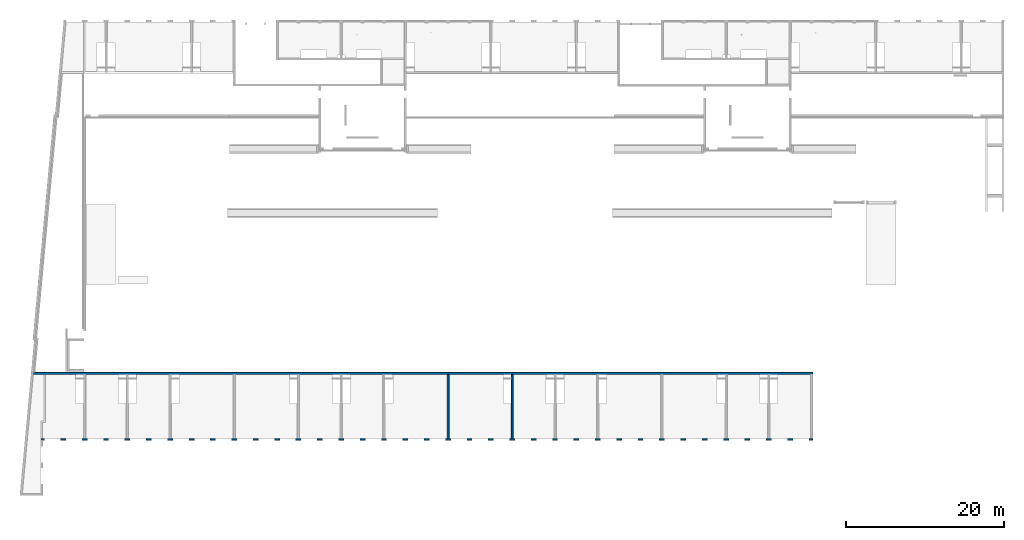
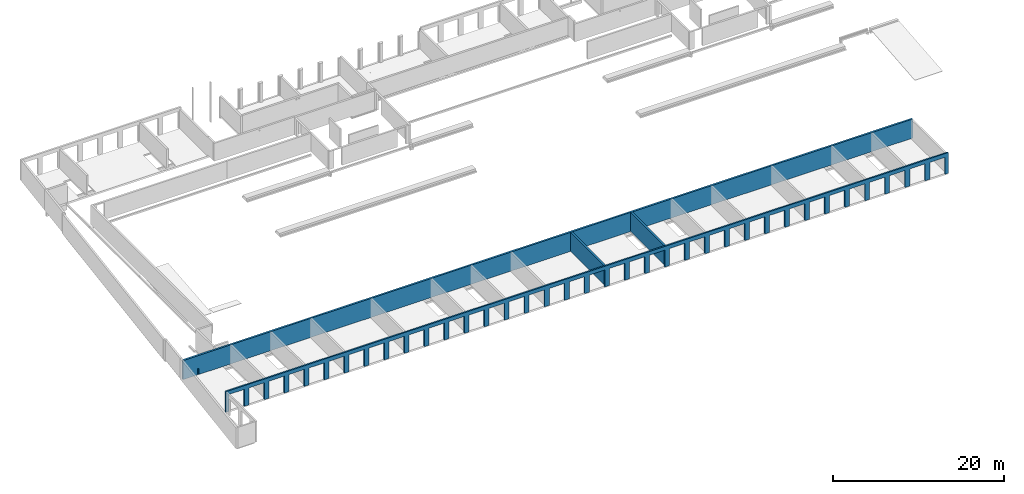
# One storey, part 9 of 18: 4 walls, 64 openings.
"""IFC2X3 building model written with IfcOpenShell, lengths in millimetres."""

from ifc_helpers import new_model, entity, si_unit, converted_unit, derived_unit, direction, frame, frame_2d, origin, place, context, subcontext, project, spatial, rectangle, extrude, faceted_brep, material, layer, layer_set, layer_usage, type_object, element, save


model = new_model("IFC2X3")

# Units and contexts
model_context = context("Model", 3, precision=0.01, world=origin(), true_north=direction((6.12303176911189e-17, 1.0)))
body_context = subcontext(model_context, "Body", "Model", "MODEL_VIEW")
ifc_project = project(units=[si_unit("LENGTHUNIT", "METRE", prefix="MILLI"), si_unit("AREAUNIT", "SQUARE_METRE"), si_unit("VOLUMEUNIT", "CUBIC_METRE"), converted_unit("PLANEANGLEUNIT", "DEGREE", entity("IfcRatioMeasure", 0.0174532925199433), si_unit("PLANEANGLEUNIT", "RADIAN"), dimensions=[0, 0, 0, 0, 0, 0, 0]), si_unit("MASSUNIT", "GRAM", prefix="KILO"), derived_unit("MASSDENSITYUNIT", [(si_unit("MASSUNIT", "GRAM", prefix="KILO"), 1), (si_unit("LENGTHUNIT", "METRE"), -3)]), si_unit("TIMEUNIT", "SECOND"), si_unit("FREQUENCYUNIT", "HERTZ"), si_unit("THERMODYNAMICTEMPERATUREUNIT", "DEGREE_CELSIUS"), derived_unit("THERMALTRANSMITTANCEUNIT", [(si_unit("MASSUNIT", "GRAM", prefix="KILO"), 1), (si_unit("THERMODYNAMICTEMPERATUREUNIT", "KELVIN"), -1), (si_unit("TIMEUNIT", "SECOND"), -3)]), derived_unit("VOLUMETRICFLOWRATEUNIT", [(si_unit("LENGTHUNIT", "METRE"), 3), (si_unit("TIMEUNIT", "SECOND"), -1)]), si_unit("ELECTRICCURRENTUNIT", "AMPERE"), si_unit("ELECTRICVOLTAGEUNIT", "VOLT"), si_unit("POWERUNIT", "WATT"), si_unit("FORCEUNIT", "NEWTON", prefix="KILO"), si_unit("ILLUMINANCEUNIT", "LUX"), si_unit("LUMINOUSFLUXUNIT", "LUMEN"), si_unit("LUMINOUSINTENSITYUNIT", "CANDELA"), derived_unit("USERDEFINED", [(si_unit("MASSUNIT", "GRAM", prefix="KILO"), -1), (si_unit("LENGTHUNIT", "METRE"), -2), (si_unit("TIMEUNIT", "SECOND"), 3), (si_unit("LUMINOUSFLUXUNIT", "LUMEN"), 1)]), derived_unit("LINEARVELOCITYUNIT", [(si_unit("LENGTHUNIT", "METRE"), 1), (si_unit("TIMEUNIT", "SECOND"), -1)]), si_unit("PRESSUREUNIT", "PASCAL"), derived_unit("USERDEFINED", [(si_unit("LENGTHUNIT", "METRE"), -2), (si_unit("MASSUNIT", "GRAM", prefix="KILO"), 1), (si_unit("TIMEUNIT", "SECOND"), -2)])], contexts=[model_context])

# Site, building, storey
site_placement = place(None, origin())
site = spatial("IfcSite", under=ifc_project, at=site_placement, Name="Default", CompositionType="ELEMENT")
building_placement = place(site_placement, origin())
building = spatial("IfcBuilding", under=site, at=building_placement, Name="niet gebruiken", CompositionType="ELEMENT")
storey_placement = place(building_placement, frame((0.0, 0.0, 3690.0)))
storey = spatial("IfcBuildingStorey", under=building, at=storey_placement, Name="01 eerste verdieping", CompositionType="ELEMENT", Elevation=3690.00000000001)

# Walls
ifc_material_1 = material(Name="NLRS_f2_beton ihwg")
ifc_layer_1 = layer(ifc_material_1, 250.0)
ifc_layer_set_1 = layer_set([ifc_layer_1], Name="Basic Wall:NLRS_22.21_WA_beton ihwg d=250_gen")
ifc_layer_usage_1 = layer_usage(ifc_layer_set_1, "AXIS2", "NEGATIVE", 125.0)
wall_type_1 = type_object("IfcWallType", Name="Basic Wall:NLRS_22.21_WA_beton ihwg d=250_gen", PredefinedType="STANDARD", material=ifc_layer_set_1)
wall_1_placement = place(storey_placement, frame((54000.0, 8496.0, -90.0), z_axis=(0.0, 0.0, 1.0), x_axis=(0.0, -1.0, 0.0)))
element("IfcWallStandardCase", 1, at=wall_1_placement, inside=storey, type_object=wall_type_1, material=ifc_layer_usage_1, Name="Basic Wall:NLRS_22.21_WA_beton ihwg d=250_gen", ObjectType="Basic Wall:NLRS_22.21_WA_beton ihwg d=250_gen", context=body_context, shape_type="SweptSolid", body=[
    extrude(rectangle(XDim=8075.99999999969, YDim=249.999999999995, at=frame_2d((4037.99999999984, 0.0), x_axis=(-1.0, 0.0))), origin(), (0.0, 0.0, 1.0), 2720.00000000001),
])
ifc_layer_usage_2 = layer_usage(ifc_layer_set_1, "AXIS2", "NEGATIVE", 125.0)
wall_2_placement = place(storey_placement, frame((62100.0, 8496.0, -90.0), z_axis=(0.0, 0.0, 1.0), x_axis=(0.0, -1.0, 0.0)))
element("IfcWallStandardCase", 2, at=wall_2_placement, inside=storey, type_object=wall_type_1, material=ifc_layer_usage_2, Name="Basic Wall:NLRS_22.21_WA_beton ihwg d=250_gen", ObjectType="Basic Wall:NLRS_22.21_WA_beton ihwg d=250_gen", context=body_context, shape_type="SweptSolid", body=[
    extrude(rectangle(XDim=8075.99999999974, YDim=249.999999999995, at=frame_2d((4037.99999999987, 0.0), x_axis=(-1.0, 0.0))), origin(), (0.0, 0.0, 1.0), 2720.00000000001),
])

# Wall, openings
ifc_layer_usage_3 = layer_usage(ifc_layer_set_1, "AXIS2", "NEGATIVE", 125.0)
wall_3_placement = place(storey_placement, frame((1622.96064206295, 8621.0, -90.0)))
wall_3 = element("IfcWallStandardCase", 3, at=wall_3_placement, inside=storey, type_object=wall_type_1, material=ifc_layer_usage_3, Name="Basic Wall:NLRS_22.21_WA_beton ihwg d=250_gen", ObjectType="Basic Wall:NLRS_22.21_WA_beton ihwg d=250_gen", context=body_context, shape_type="SweptSolid", body=[
    extrude(rectangle(XDim=98402.0393579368, YDim=249.999999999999, at=frame_2d((49201.0196789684, -1.4210854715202e-14), x_axis=(-1.0, 0.0))), origin(), (0.0, 0.0, 1.0), 2720.00000000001),
])
opening_1_placement = place(wall_3_placement, frame((-253.463612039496, -162.364965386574, -1502.0)))
element("IfcOpeningElement", 4, at=opening_1_placement, cuts=wall_3, Name="Basic Wall:NLRS_22.21_WA_beton ihwg d=250_gen", ObjectType="Opening", context=body_context, shape_type="Brep", body=[
    faceted_brep([(282.44387359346, 350.0, 4300.0), (0.0, 350.0, 4300.0), (0.0, 0.0, 4300.0), (250.0, 0.0, 4300.0), (282.44387359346, 350.0, 0.0), (250.0, 0.0, 0.0), (0.0, 0.0, 0.0), (0.0, 350.0, 0.0)], [[[0, 1, 2, 3]], [[4, 5, 6, 7]], [[1, 0, 4, 7]], [[2, 1, 7, 6]], [[3, 2, 6, 5]], [[0, 3, 5, 4]]]),
])
opening_2_placement = place(wall_3_placement, origin())
element("IfcOpeningElement", 5, at=opening_2_placement, cuts=wall_3, Name="Basic Wall:NLRS_22.21_WA_beton ihwg d=250_gen", ObjectType="Recess", context=body_context, shape_type="SweptSolid", body=[
    extrude(rectangle(XDim=890.0, YDim=200.000000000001, at=frame_2d((0.0, 2.77111666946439e-13), x_axis=(1.0, 0.0))), frame((2022.03935793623, -125.0, 445.0), z_axis=(0.0, 1.0, 0.0), x_axis=(0.0, 0.0, -1.0)), (0.0, 0.0, 1.0), 40.0000000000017),
])

ifc_material_2 = material(Name="NLRS_f2_beton prefab")
ifc_layer_2 = layer(ifc_material_2, 200.0)
ifc_layer_set_2 = layer_set([ifc_layer_2], Name="Basic Wall:NLRS_21.21_WA_beton prefab d=200_gen")
ifc_layer_usage_4 = layer_usage(ifc_layer_set_2, "AXIS2", "NEGATIVE", 100.0)
wall_type_2 = type_object("IfcWallType", Name="Basic Wall:NLRS_21.21_WA_beton prefab d=200_gen", PredefinedType="STANDARD", material=ifc_layer_set_2)
wall_4_placement = place(storey_placement, frame((2600.0, 300.0, -70.0)))
wall_4 = element("IfcWallStandardCase", 6, at=wall_4_placement, inside=storey, type_object=wall_type_2, material=ifc_layer_usage_4, Name="Basic Wall:NLRS_21.21_WA_beton prefab d=200_gen", ObjectType="Basic Wall:NLRS_21.21_WA_beton prefab d=200_gen", context=body_context, shape_type="SweptSolid", body=[
    extrude(rectangle(XDim=97424.9999999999, YDim=200.0, at=frame_2d((48712.5, -2.8421709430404e-14), x_axis=(-1.0, 0.0))), origin(), (0.0, 0.0, 1.0), 2950.00000000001),
])
opening_3_placement = place(wall_4_placement, origin())
element("IfcOpeningElement", 7, at=opening_3_placement, cuts=wall_4, Name="Basic Wall:NLRS_21.21_WA_beton prefab d=200_gen", ObjectType="Opening", context=body_context, shape_type="SweptSolid", body=[
    extrude(rectangle(XDim=2440.0, YDim=2080.0, at=frame_2d((-8.64019966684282e-12, 0.0), x_axis=(0.0, 1.0))), frame((95950.0, -1424.0, 1200.0), z_axis=(0.0, 1.0, 0.0), x_axis=(-1.0, 0.0, 0.0)), (0.0, 0.0, 1.0), 3048.0),
])
opening_4_placement = place(wall_4_placement, origin())
element("IfcOpeningElement", 8, at=opening_4_placement, cuts=wall_4, Name="Basic Wall:NLRS_21.21_WA_beton prefab d=200_gen", ObjectType="Opening", context=body_context, shape_type="SweptSolid", body=[
    extrude(rectangle(XDim=2440.0, YDim=2080.0, at=frame_2d((8.64019966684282e-12, 0.0), x_axis=(0.0, 1.0))), frame((93250.0, -1424.0, 1200.0), z_axis=(0.0, 1.0, 0.0), x_axis=(-1.0, 0.0, 0.0)), (0.0, 0.0, 1.0), 3048.0),
])
opening_5_placement = place(wall_4_placement, origin())
element("IfcOpeningElement", 9, at=opening_5_placement, cuts=wall_4, Name="Basic Wall:NLRS_21.21_WA_beton prefab d=200_gen", ObjectType="Opening", context=body_context, shape_type="SweptSolid", body=[
    extrude(rectangle(XDim=2440.0, YDim=2080.0, at=frame_2d((8.64019966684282e-12, 0.0), x_axis=(0.0, 1.0))), frame((90550.0, -1424.0, 1200.0), z_axis=(0.0, 1.0, 0.0), x_axis=(-1.0, 0.0, 0.0)), (0.0, 0.0, 1.0), 3048.0),
])
opening_6_placement = place(wall_4_placement, origin())
element("IfcOpeningElement", 10, at=opening_6_placement, cuts=wall_4, Name="Basic Wall:NLRS_21.21_WA_beton prefab d=200_gen", ObjectType="Opening", context=body_context, shape_type="SweptSolid", body=[
    extrude(rectangle(XDim=2440.0, YDim=2080.0, at=frame_2d((-8.64019966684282e-12, 0.0), x_axis=(0.0, 1.0))), frame((87850.0, -1424.0, 1200.0), z_axis=(0.0, 1.0, 0.0), x_axis=(-1.0, 0.0, 0.0)), (0.0, 0.0, 1.0), 3048.0),
])
opening_7_placement = place(wall_4_placement, origin())
element("IfcOpeningElement", 11, at=opening_7_placement, cuts=wall_4, Name="Basic Wall:NLRS_21.21_WA_beton prefab d=200_gen", ObjectType="Opening", context=body_context, shape_type="SweptSolid", body=[
    extrude(rectangle(XDim=2440.0, YDim=2080.0, at=frame_2d((8.64019966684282e-12, 0.0), x_axis=(0.0, 1.0))), frame((85150.0, -1424.0, 1200.0), z_axis=(0.0, 1.0, 0.0), x_axis=(-1.0, 0.0, 0.0)), (0.0, 0.0, 1.0), 3048.0),
])
opening_8_placement = place(wall_4_placement, origin())
element("IfcOpeningElement", 12, at=opening_8_placement, cuts=wall_4, Name="Basic Wall:NLRS_21.21_WA_beton prefab d=200_gen", ObjectType="Opening", context=body_context, shape_type="SweptSolid", body=[
    extrude(rectangle(XDim=2440.0, YDim=2080.0, at=frame_2d((8.64019966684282e-12, 0.0), x_axis=(0.0, 1.0))), frame((82450.0, -1424.0, 1200.0), z_axis=(0.0, 1.0, 0.0), x_axis=(-1.0, 0.0, 0.0)), (0.0, 0.0, 1.0), 3048.0),
])
opening_9_placement = place(wall_4_placement, origin())
element("IfcOpeningElement", 13, at=opening_9_placement, cuts=wall_4, Name="Basic Wall:NLRS_21.21_WA_beton prefab d=200_gen", ObjectType="Opening", context=body_context, shape_type="SweptSolid", body=[
    extrude(rectangle(XDim=2440.0, YDim=2080.0, at=frame_2d((-8.64019966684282e-12, 0.0), x_axis=(0.0, 1.0))), frame((79750.0, -1424.0, 1200.0), z_axis=(0.0, 1.0, 0.0), x_axis=(-1.0, 0.0, 0.0)), (0.0, 0.0, 1.0), 3048.0),
])
opening_10_placement = place(wall_4_placement, origin())
element("IfcOpeningElement", 14, at=opening_10_placement, cuts=wall_4, Name="Basic Wall:NLRS_21.21_WA_beton prefab d=200_gen", ObjectType="Opening", context=body_context, shape_type="SweptSolid", body=[
    extrude(rectangle(XDim=2440.0, YDim=2080.0, at=frame_2d((-8.64019966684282e-12, 0.0), x_axis=(0.0, 1.0))), frame((77050.0, -1424.0, 1200.0), z_axis=(0.0, 1.0, 0.0), x_axis=(-1.0, 0.0, 0.0)), (0.0, 0.0, 1.0), 3048.0),
])
opening_11_placement = place(wall_4_placement, origin())
element("IfcOpeningElement", 15, at=opening_11_placement, cuts=wall_4, Name="Basic Wall:NLRS_21.21_WA_beton prefab d=200_gen", ObjectType="Opening", context=body_context, shape_type="SweptSolid", body=[
    extrude(rectangle(XDim=2440.0, YDim=2080.0, at=frame_2d((0.0, 0.0), x_axis=(0.0, 1.0))), frame((74350.0, -1424.0, 1200.0), z_axis=(0.0, 1.0, 0.0), x_axis=(-1.0, 0.0, 0.0)), (0.0, 0.0, 1.0), 3048.0),
])
opening_12_placement = place(wall_4_placement, origin())
element("IfcOpeningElement", 16, at=opening_12_placement, cuts=wall_4, Name="Basic Wall:NLRS_21.21_WA_beton prefab d=200_gen", ObjectType="Opening", context=body_context, shape_type="SweptSolid", body=[
    extrude(rectangle(XDim=2440.0, YDim=2080.0, at=frame_2d((0.0, 0.0), x_axis=(0.0, 1.0))), frame((71650.0, -1424.0, 1200.0), z_axis=(0.0, 1.0, 0.0), x_axis=(-1.0, 0.0, 0.0)), (0.0, 0.0, 1.0), 3048.0),
])
opening_13_placement = place(wall_4_placement, origin())
element("IfcOpeningElement", 17, at=opening_13_placement, cuts=wall_4, Name="Basic Wall:NLRS_21.21_WA_beton prefab d=200_gen", ObjectType="Opening", context=body_context, shape_type="SweptSolid", body=[
    extrude(rectangle(XDim=2440.0, YDim=2080.0, at=frame_2d((8.64019966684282e-12, 0.0), x_axis=(0.0, 1.0))), frame((68950.0, -1424.0, 1200.0), z_axis=(0.0, 1.0, 0.0), x_axis=(-1.0, 0.0, 0.0)), (0.0, 0.0, 1.0), 3048.0),
])
opening_14_placement = place(wall_4_placement, origin())
element("IfcOpeningElement", 18, at=opening_14_placement, cuts=wall_4, Name="Basic Wall:NLRS_21.21_WA_beton prefab d=200_gen", ObjectType="Opening", context=body_context, shape_type="SweptSolid", body=[
    extrude(rectangle(XDim=2440.0, YDim=2080.0, at=frame_2d((0.0, 0.0), x_axis=(0.0, 1.0))), frame((66250.0, -1424.0, 1200.0), z_axis=(0.0, 1.0, 0.0), x_axis=(-1.0, 0.0, 0.0)), (0.0, 0.0, 1.0), 3048.0),
])
opening_15_placement = place(wall_4_placement, origin())
element("IfcOpeningElement", 19, at=opening_15_placement, cuts=wall_4, Name="Basic Wall:NLRS_21.21_WA_beton prefab d=200_gen", ObjectType="Opening", context=body_context, shape_type="SweptSolid", body=[
    extrude(rectangle(XDim=2440.0, YDim=2080.0, at=frame_2d((0.0, 0.0), x_axis=(0.0, 1.0))), frame((63550.0, -1424.0, 1200.0), z_axis=(0.0, 1.0, 0.0), x_axis=(-1.0, 0.0, 0.0)), (0.0, 0.0, 1.0), 3048.0),
])
opening_16_placement = place(wall_4_placement, origin())
element("IfcOpeningElement", 20, at=opening_16_placement, cuts=wall_4, Name="Basic Wall:NLRS_21.21_WA_beton prefab d=200_gen", ObjectType="Opening", context=body_context, shape_type="SweptSolid", body=[
    extrude(rectangle(XDim=2440.0, YDim=2080.0, at=frame_2d((-8.64019966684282e-12, 0.0), x_axis=(0.0, 1.0))), frame((60850.0, -1424.0, 1200.0), z_axis=(0.0, 1.0, 0.0), x_axis=(-1.0, 0.0, 0.0)), (0.0, 0.0, 1.0), 3048.0),
])
opening_17_placement = place(wall_4_placement, origin())
element("IfcOpeningElement", 21, at=opening_17_placement, cuts=wall_4, Name="Basic Wall:NLRS_21.21_WA_beton prefab d=200_gen", ObjectType="Opening", context=body_context, shape_type="SweptSolid", body=[
    extrude(rectangle(XDim=2440.0, YDim=2080.0, at=frame_2d((0.0, 0.0), x_axis=(0.0, 1.0))), frame((58150.0, -1424.0, 1200.0), z_axis=(0.0, 1.0, 0.0), x_axis=(-1.0, 0.0, 0.0)), (0.0, 0.0, 1.0), 3048.0),
])
opening_18_placement = place(wall_4_placement, origin())
element("IfcOpeningElement", 22, at=opening_18_placement, cuts=wall_4, Name="Basic Wall:NLRS_21.21_WA_beton prefab d=200_gen", ObjectType="Opening", context=body_context, shape_type="SweptSolid", body=[
    extrude(rectangle(XDim=2440.0, YDim=2080.0, at=frame_2d((0.0, 0.0), x_axis=(0.0, 1.0))), frame((55450.0, -1424.0, 1200.0), z_axis=(0.0, 1.0, 0.0), x_axis=(-1.0, 0.0, 0.0)), (0.0, 0.0, 1.0), 3048.0),
])
opening_19_placement = place(wall_4_placement, origin())
element("IfcOpeningElement", 23, at=opening_19_placement, cuts=wall_4, Name="Basic Wall:NLRS_21.21_WA_beton prefab d=200_gen", ObjectType="Opening", context=body_context, shape_type="SweptSolid", body=[
    extrude(rectangle(XDim=2440.0, YDim=2080.0, at=frame_2d((0.0, 0.0), x_axis=(0.0, 1.0))), frame((52750.0, -1424.0, 1200.0), z_axis=(0.0, 1.0, 0.0), x_axis=(-1.0, 0.0, 0.0)), (0.0, 0.0, 1.0), 3048.0),
])
opening_20_placement = place(wall_4_placement, origin())
element("IfcOpeningElement", 24, at=opening_20_placement, cuts=wall_4, Name="Basic Wall:NLRS_21.21_WA_beton prefab d=200_gen", ObjectType="Opening", context=body_context, shape_type="SweptSolid", body=[
    extrude(rectangle(XDim=2440.0, YDim=2080.0, at=frame_2d((8.64019966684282e-12, 0.0), x_axis=(0.0, 1.0))), frame((50050.0, -1424.0, 1200.0), z_axis=(0.0, 1.0, 0.0), x_axis=(-1.0, 0.0, 0.0)), (0.0, 0.0, 1.0), 3048.0),
])
opening_21_placement = place(wall_4_placement, origin())
element("IfcOpeningElement", 25, at=opening_21_placement, cuts=wall_4, Name="Basic Wall:NLRS_21.21_WA_beton prefab d=200_gen", ObjectType="Opening", context=body_context, shape_type="SweptSolid", body=[
    extrude(rectangle(XDim=2440.0, YDim=2080.0, at=frame_2d((0.0, 0.0), x_axis=(0.0, 1.0))), frame((47350.0, -1424.0, 1200.0), z_axis=(0.0, 1.0, 0.0), x_axis=(-1.0, 0.0, 0.0)), (0.0, 0.0, 1.0), 3048.0),
])
opening_22_placement = place(wall_4_placement, origin())
element("IfcOpeningElement", 26, at=opening_22_placement, cuts=wall_4, Name="Basic Wall:NLRS_21.21_WA_beton prefab d=200_gen", ObjectType="Opening", context=body_context, shape_type="SweptSolid", body=[
    extrude(rectangle(XDim=2440.0, YDim=2080.0, at=frame_2d((0.0, 0.0), x_axis=(0.0, 1.0))), frame((44650.0, -1424.0, 1200.0), z_axis=(0.0, 1.0, 0.0), x_axis=(-1.0, 0.0, 0.0)), (0.0, 0.0, 1.0), 3048.0),
])
opening_23_placement = place(wall_4_placement, origin())
element("IfcOpeningElement", 27, at=opening_23_placement, cuts=wall_4, Name="Basic Wall:NLRS_21.21_WA_beton prefab d=200_gen", ObjectType="Opening", context=body_context, shape_type="SweptSolid", body=[
    extrude(rectangle(XDim=2440.0, YDim=2080.0, at=frame_2d((0.0, 0.0), x_axis=(0.0, 1.0))), frame((41950.0, -1424.0, 1200.0), z_axis=(0.0, 1.0, 0.0), x_axis=(-1.0, 0.0, 0.0)), (0.0, 0.0, 1.0), 3048.0),
])
opening_24_placement = place(wall_4_placement, origin())
element("IfcOpeningElement", 28, at=opening_24_placement, cuts=wall_4, Name="Basic Wall:NLRS_21.21_WA_beton prefab d=200_gen", ObjectType="Opening", context=body_context, shape_type="SweptSolid", body=[
    extrude(rectangle(XDim=2440.0, YDim=2080.0, at=frame_2d((0.0, 0.0), x_axis=(0.0, 1.0))), frame((39250.0, -1424.0, 1200.0), z_axis=(0.0, 1.0, 0.0), x_axis=(-1.0, 0.0, 0.0)), (0.0, 0.0, 1.0), 3048.0),
])
opening_25_placement = place(wall_4_placement, origin())
element("IfcOpeningElement", 29, at=opening_25_placement, cuts=wall_4, Name="Basic Wall:NLRS_21.21_WA_beton prefab d=200_gen", ObjectType="Opening", context=body_context, shape_type="SweptSolid", body=[
    extrude(rectangle(XDim=2440.0, YDim=2079.99999999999, at=frame_2d((-2.1600499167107e-12, 0.0), x_axis=(0.0, 1.0))), frame((36550.0, -1424.0, 1200.0), z_axis=(0.0, 1.0, 0.0), x_axis=(-1.0, 0.0, 0.0)), (0.0, 0.0, 1.0), 3048.0),
])
opening_26_placement = place(wall_4_placement, origin())
element("IfcOpeningElement", 30, at=opening_26_placement, cuts=wall_4, Name="Basic Wall:NLRS_21.21_WA_beton prefab d=200_gen", ObjectType="Opening", context=body_context, shape_type="SweptSolid", body=[
    extrude(rectangle(XDim=2440.0, YDim=2080.0, at=frame_2d((2.1600499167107e-12, 0.0), x_axis=(0.0, 1.0))), frame((33850.0, -1424.0, 1200.0), z_axis=(0.0, 1.0, 0.0), x_axis=(-1.0, 0.0, 0.0)), (0.0, 0.0, 1.0), 3048.0),
])
opening_27_placement = place(wall_4_placement, origin())
element("IfcOpeningElement", 31, at=opening_27_placement, cuts=wall_4, Name="Basic Wall:NLRS_21.21_WA_beton prefab d=200_gen", ObjectType="Opening", context=body_context, shape_type="SweptSolid", body=[
    extrude(rectangle(XDim=2440.0, YDim=2080.0, at=frame_2d((2.1600499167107e-12, 0.0), x_axis=(0.0, 1.0))), frame((31150.0, -1424.0, 1200.0), z_axis=(0.0, 1.0, 0.0), x_axis=(-1.0, 0.0, 0.0)), (0.0, 0.0, 1.0), 3048.0),
])
opening_28_placement = place(wall_4_placement, origin())
element("IfcOpeningElement", 32, at=opening_28_placement, cuts=wall_4, Name="Basic Wall:NLRS_21.21_WA_beton prefab d=200_gen", ObjectType="Opening", context=body_context, shape_type="SweptSolid", body=[
    extrude(rectangle(XDim=2440.0, YDim=2080.0, at=frame_2d((2.1600499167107e-12, 0.0), x_axis=(0.0, 1.0))), frame((28450.0, -1424.0, 1200.0), z_axis=(0.0, 1.0, 0.0), x_axis=(-1.0, 0.0, 0.0)), (0.0, 0.0, 1.0), 3048.0),
])
opening_29_placement = place(wall_4_placement, origin())
element("IfcOpeningElement", 33, at=opening_29_placement, cuts=wall_4, Name="Basic Wall:NLRS_21.21_WA_beton prefab d=200_gen", ObjectType="Opening", context=body_context, shape_type="SweptSolid", body=[
    extrude(rectangle(XDim=2440.0, YDim=2080.0, at=frame_2d((2.1600499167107e-12, 0.0), x_axis=(0.0, 1.0))), frame((25750.0, -1424.0, 1200.0), z_axis=(0.0, 1.0, 0.0), x_axis=(-1.0, 0.0, 0.0)), (0.0, 0.0, 1.0), 3048.0),
])
opening_30_placement = place(wall_4_placement, origin())
element("IfcOpeningElement", 34, at=opening_30_placement, cuts=wall_4, Name="Basic Wall:NLRS_21.21_WA_beton prefab d=200_gen", ObjectType="Opening", context=body_context, shape_type="SweptSolid", body=[
    extrude(rectangle(XDim=2440.0, YDim=2080.0, at=frame_2d((2.1600499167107e-12, 0.0), x_axis=(0.0, 1.0))), frame((23050.0, -1424.0, 1200.0), z_axis=(0.0, 1.0, 0.0), x_axis=(-1.0, 0.0, 0.0)), (0.0, 0.0, 1.0), 3048.0),
])
opening_31_placement = place(wall_4_placement, origin())
element("IfcOpeningElement", 35, at=opening_31_placement, cuts=wall_4, Name="Basic Wall:NLRS_21.21_WA_beton prefab d=200_gen", ObjectType="Opening", context=body_context, shape_type="SweptSolid", body=[
    extrude(rectangle(XDim=2440.0, YDim=2080.0, at=frame_2d((2.1600499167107e-12, 0.0), x_axis=(0.0, 1.0))), frame((20350.0, -1424.0, 1200.0), z_axis=(0.0, 1.0, 0.0), x_axis=(-1.0, 0.0, 0.0)), (0.0, 0.0, 1.0), 3048.0),
])
opening_32_placement = place(wall_4_placement, origin())
element("IfcOpeningElement", 36, at=opening_32_placement, cuts=wall_4, Name="Basic Wall:NLRS_21.21_WA_beton prefab d=200_gen", ObjectType="Opening", context=body_context, shape_type="SweptSolid", body=[
    extrude(rectangle(XDim=2440.0, YDim=2080.0, at=frame_2d((-1.13686837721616e-12, 0.0), x_axis=(0.0, 1.0))), frame((17650.0, -1424.0, 1200.0), z_axis=(0.0, 1.0, 0.0), x_axis=(-1.0, 0.0, 0.0)), (0.0, 0.0, 1.0), 3048.0),
])
opening_33_placement = place(wall_4_placement, origin())
element("IfcOpeningElement", 37, at=opening_33_placement, cuts=wall_4, Name="Basic Wall:NLRS_21.21_WA_beton prefab d=200_gen", ObjectType="Opening", context=body_context, shape_type="SweptSolid", body=[
    extrude(rectangle(XDim=2440.0, YDim=2080.0, at=frame_2d((0.0, 0.0), x_axis=(0.0, 1.0))), frame((14950.0, -1424.0, 1200.0), z_axis=(0.0, 1.0, 0.0), x_axis=(-1.0, 0.0, 0.0)), (0.0, 0.0, 1.0), 3048.0),
])
opening_34_placement = place(wall_4_placement, origin())
element("IfcOpeningElement", 38, at=opening_34_placement, cuts=wall_4, Name="Basic Wall:NLRS_21.21_WA_beton prefab d=200_gen", ObjectType="Opening", context=body_context, shape_type="SweptSolid", body=[
    extrude(rectangle(XDim=2440.0, YDim=2080.0, at=frame_2d((0.0, 0.0), x_axis=(0.0, 1.0))), frame((12250.0, -1424.0, 1200.0), z_axis=(0.0, 1.0, 0.0), x_axis=(-1.0, 0.0, 0.0)), (0.0, 0.0, 1.0), 3048.0),
])
opening_35_placement = place(wall_4_placement, origin())
element("IfcOpeningElement", 39, at=opening_35_placement, cuts=wall_4, Name="Basic Wall:NLRS_21.21_WA_beton prefab d=200_gen", ObjectType="Opening", context=body_context, shape_type="SweptSolid", body=[
    extrude(rectangle(XDim=2440.0, YDim=2080.0, at=frame_2d((0.0, 0.0), x_axis=(0.0, 1.0))), frame((9550.0, -1424.0, 1200.0), z_axis=(0.0, 1.0, 0.0), x_axis=(-1.0, 0.0, 0.0)), (0.0, 0.0, 1.0), 3048.0),
])
opening_36_placement = place(wall_4_placement, origin())
element("IfcOpeningElement", 40, at=opening_36_placement, cuts=wall_4, Name="Basic Wall:NLRS_21.21_WA_beton prefab d=200_gen", ObjectType="Opening", context=body_context, shape_type="SweptSolid", body=[
    extrude(rectangle(XDim=2440.0, YDim=2080.0, at=frame_2d((5.6843418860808e-13, 0.0), x_axis=(0.0, 1.0))), frame((6850.0, -1424.0, 1200.0), z_axis=(0.0, 1.0, 0.0), x_axis=(-1.0, 0.0, 0.0)), (0.0, 0.0, 1.0), 3048.0),
])
opening_37_placement = place(wall_4_placement, origin())
element("IfcOpeningElement", 41, at=opening_37_placement, cuts=wall_4, Name="Basic Wall:NLRS_21.21_WA_beton prefab d=200_gen", ObjectType="Opening", context=body_context, shape_type="SweptSolid", body=[
    extrude(rectangle(XDim=2440.0, YDim=2080.0, at=frame_2d((5.6843418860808e-13, 0.0), x_axis=(0.0, 1.0))), frame((4150.0, -1424.0, 1200.0), z_axis=(0.0, 1.0, 0.0), x_axis=(-1.0, 0.0, 0.0)), (0.0, 0.0, 1.0), 3048.0),
])
opening_38_placement = place(wall_4_placement, origin())
element("IfcOpeningElement", 42, at=opening_38_placement, cuts=wall_4, Name="Basic Wall:NLRS_21.21_WA_beton prefab d=200_gen", ObjectType="Opening", context=body_context, shape_type="SweptSolid", body=[
    extrude(rectangle(XDim=2440.0, YDim=2080.0, at=frame_2d((-2.27373675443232e-13, 0.0), x_axis=(0.0, 1.0))), frame((1450.0, -1424.0, 1200.0), z_axis=(0.0, 1.0, 0.0), x_axis=(-1.0, 0.0, 0.0)), (0.0, 0.0, 1.0), 3048.0),
])
opening_39_placement = place(wall_4_placement, origin())
element("IfcOpeningElement", 43, at=opening_39_placement, cuts=wall_4, Name="Basic Wall:NLRS_21.21_WA_beton prefab d=200_gen", ObjectType="Opening", context=body_context, shape_type="SweptSolid", body=[
    extrude(rectangle(XDim=2440.0, YDim=2080.0, at=frame_2d((2.1600499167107e-12, 0.0), x_axis=(0.0, 1.0))), frame((25750.0, -1424.0, 4170.0), z_axis=(0.0, 1.0, 0.0), x_axis=(-1.0, 0.0, 0.0)), (0.0, 0.0, 1.0), 3048.0),
])
opening_40_placement = place(wall_4_placement, origin())
element("IfcOpeningElement", 44, at=opening_40_placement, cuts=wall_4, Name="Basic Wall:NLRS_21.21_WA_beton prefab d=200_gen", ObjectType="Opening", context=body_context, shape_type="SweptSolid", body=[
    extrude(rectangle(XDim=2440.0, YDim=2080.0, at=frame_2d((2.1600499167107e-12, 0.0), x_axis=(0.0, 1.0))), frame((28450.0, -1424.0, 4170.0), z_axis=(0.0, 1.0, 0.0), x_axis=(-1.0, 0.0, 0.0)), (0.0, 0.0, 1.0), 3048.0),
])
opening_41_placement = place(wall_4_placement, origin())
element("IfcOpeningElement", 45, at=opening_41_placement, cuts=wall_4, Name="Basic Wall:NLRS_21.21_WA_beton prefab d=200_gen", ObjectType="Opening", context=body_context, shape_type="SweptSolid", body=[
    extrude(rectangle(XDim=2440.0, YDim=2080.0, at=frame_2d((2.1600499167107e-12, 0.0), x_axis=(0.0, 1.0))), frame((31150.0, -1424.0, 4170.0), z_axis=(0.0, 1.0, 0.0), x_axis=(-1.0, 0.0, 0.0)), (0.0, 0.0, 1.0), 3048.0),
])
opening_42_placement = place(wall_4_placement, origin())
element("IfcOpeningElement", 46, at=opening_42_placement, cuts=wall_4, Name="Basic Wall:NLRS_21.21_WA_beton prefab d=200_gen", ObjectType="Opening", context=body_context, shape_type="SweptSolid", body=[
    extrude(rectangle(XDim=2440.0, YDim=2080.0, at=frame_2d((2.1600499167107e-12, 0.0), x_axis=(0.0, 1.0))), frame((33850.0, -1424.0, 4170.0), z_axis=(0.0, 1.0, 0.0), x_axis=(-1.0, 0.0, 0.0)), (0.0, 0.0, 1.0), 3048.0),
])
opening_43_placement = place(wall_4_placement, origin())
element("IfcOpeningElement", 47, at=opening_43_placement, cuts=wall_4, Name="Basic Wall:NLRS_21.21_WA_beton prefab d=200_gen", ObjectType="Opening", context=body_context, shape_type="SweptSolid", body=[
    extrude(rectangle(XDim=2440.0, YDim=2079.99999999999, at=frame_2d((-2.1600499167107e-12, 0.0), x_axis=(0.0, 1.0))), frame((36550.0, -1424.0, 4170.0), z_axis=(0.0, 1.0, 0.0), x_axis=(-1.0, 0.0, 0.0)), (0.0, 0.0, 1.0), 3048.0),
])
opening_44_placement = place(wall_4_placement, origin())
element("IfcOpeningElement", 48, at=opening_44_placement, cuts=wall_4, Name="Basic Wall:NLRS_21.21_WA_beton prefab d=200_gen", ObjectType="Opening", context=body_context, shape_type="SweptSolid", body=[
    extrude(rectangle(XDim=2440.0, YDim=2080.0, at=frame_2d((0.0, 0.0), x_axis=(0.0, 1.0))), frame((39250.0, -1424.0, 4170.0), z_axis=(0.0, 1.0, 0.0), x_axis=(-1.0, 0.0, 0.0)), (0.0, 0.0, 1.0), 3048.0),
])
opening_45_placement = place(wall_4_placement, origin())
element("IfcOpeningElement", 49, at=opening_45_placement, cuts=wall_4, Name="Basic Wall:NLRS_21.21_WA_beton prefab d=200_gen", ObjectType="Opening", context=body_context, shape_type="SweptSolid", body=[
    extrude(rectangle(XDim=2440.0, YDim=2080.0, at=frame_2d((0.0, 0.0), x_axis=(0.0, 1.0))), frame((41950.0, -1424.0, 4170.0), z_axis=(0.0, 1.0, 0.0), x_axis=(-1.0, 0.0, 0.0)), (0.0, 0.0, 1.0), 3048.0),
])
opening_46_placement = place(wall_4_placement, origin())
element("IfcOpeningElement", 50, at=opening_46_placement, cuts=wall_4, Name="Basic Wall:NLRS_21.21_WA_beton prefab d=200_gen", ObjectType="Opening", context=body_context, shape_type="SweptSolid", body=[
    extrude(rectangle(XDim=2440.0, YDim=2080.0, at=frame_2d((0.0, 0.0), x_axis=(0.0, 1.0))), frame((44650.0, -1424.0, 4170.0), z_axis=(0.0, 1.0, 0.0), x_axis=(-1.0, 0.0, 0.0)), (0.0, 0.0, 1.0), 3048.0),
])
opening_47_placement = place(wall_4_placement, origin())
element("IfcOpeningElement", 51, at=opening_47_placement, cuts=wall_4, Name="Basic Wall:NLRS_21.21_WA_beton prefab d=200_gen", ObjectType="Opening", context=body_context, shape_type="SweptSolid", body=[
    extrude(rectangle(XDim=2440.0, YDim=2080.0, at=frame_2d((0.0, 0.0), x_axis=(0.0, 1.0))), frame((47350.0, -1424.0, 4170.0), z_axis=(0.0, 1.0, 0.0), x_axis=(-1.0, 0.0, 0.0)), (0.0, 0.0, 1.0), 3048.0),
])
opening_48_placement = place(wall_4_placement, origin())
element("IfcOpeningElement", 52, at=opening_48_placement, cuts=wall_4, Name="Basic Wall:NLRS_21.21_WA_beton prefab d=200_gen", ObjectType="Opening", context=body_context, shape_type="SweptSolid", body=[
    extrude(rectangle(XDim=2440.0, YDim=2080.0, at=frame_2d((8.64019966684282e-12, 0.0), x_axis=(0.0, 1.0))), frame((50050.0, -1424.0, 4170.0), z_axis=(0.0, 1.0, 0.0), x_axis=(-1.0, 0.0, 0.0)), (0.0, 0.0, 1.0), 3048.0),
])
opening_49_placement = place(wall_4_placement, origin())
element("IfcOpeningElement", 53, at=opening_49_placement, cuts=wall_4, Name="Basic Wall:NLRS_21.21_WA_beton prefab d=200_gen", ObjectType="Opening", context=body_context, shape_type="SweptSolid", body=[
    extrude(rectangle(XDim=2440.0, YDim=2080.0, at=frame_2d((0.0, 0.0), x_axis=(0.0, 1.0))), frame((52750.0, -1424.0, 4170.0), z_axis=(0.0, 1.0, 0.0), x_axis=(-1.0, 0.0, 0.0)), (0.0, 0.0, 1.0), 3048.0),
])
opening_50_placement = place(wall_4_placement, origin())
element("IfcOpeningElement", 54, at=opening_50_placement, cuts=wall_4, Name="Basic Wall:NLRS_21.21_WA_beton prefab d=200_gen", ObjectType="Opening", context=body_context, shape_type="SweptSolid", body=[
    extrude(rectangle(XDim=2440.0, YDim=2080.0, at=frame_2d((0.0, 0.0), x_axis=(0.0, 1.0))), frame((55450.0, -1424.0, 4170.0), z_axis=(0.0, 1.0, 0.0), x_axis=(-1.0, 0.0, 0.0)), (0.0, 0.0, 1.0), 3048.0),
])
opening_51_placement = place(wall_4_placement, origin())
element("IfcOpeningElement", 55, at=opening_51_placement, cuts=wall_4, Name="Basic Wall:NLRS_21.21_WA_beton prefab d=200_gen", ObjectType="Opening", context=body_context, shape_type="SweptSolid", body=[
    extrude(rectangle(XDim=2440.0, YDim=2080.0, at=frame_2d((0.0, 0.0), x_axis=(0.0, 1.0))), frame((58150.0, -1424.0, 4170.0), z_axis=(0.0, 1.0, 0.0), x_axis=(-1.0, 0.0, 0.0)), (0.0, 0.0, 1.0), 3048.0),
])
opening_52_placement = place(wall_4_placement, origin())
element("IfcOpeningElement", 56, at=opening_52_placement, cuts=wall_4, Name="Basic Wall:NLRS_21.21_WA_beton prefab d=200_gen", ObjectType="Opening", context=body_context, shape_type="SweptSolid", body=[
    extrude(rectangle(XDim=2440.0, YDim=2080.0, at=frame_2d((-8.64019966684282e-12, 0.0), x_axis=(0.0, 1.0))), frame((60850.0, -1424.0, 4170.0), z_axis=(0.0, 1.0, 0.0), x_axis=(-1.0, 0.0, 0.0)), (0.0, 0.0, 1.0), 3048.0),
])
opening_53_placement = place(wall_4_placement, origin())
element("IfcOpeningElement", 57, at=opening_53_placement, cuts=wall_4, Name="Basic Wall:NLRS_21.21_WA_beton prefab d=200_gen", ObjectType="Opening", context=body_context, shape_type="SweptSolid", body=[
    extrude(rectangle(XDim=2440.0, YDim=2080.0, at=frame_2d((0.0, 0.0), x_axis=(0.0, 1.0))), frame((63550.0, -1424.0, 4170.0), z_axis=(0.0, 1.0, 0.0), x_axis=(-1.0, 0.0, 0.0)), (0.0, 0.0, 1.0), 3048.0),
])
opening_54_placement = place(wall_4_placement, origin())
element("IfcOpeningElement", 58, at=opening_54_placement, cuts=wall_4, Name="Basic Wall:NLRS_21.21_WA_beton prefab d=200_gen", ObjectType="Opening", context=body_context, shape_type="SweptSolid", body=[
    extrude(rectangle(XDim=2440.0, YDim=2080.0, at=frame_2d((0.0, 0.0), x_axis=(0.0, 1.0))), frame((66250.0, -1424.0, 4170.0), z_axis=(0.0, 1.0, 0.0), x_axis=(-1.0, 0.0, 0.0)), (0.0, 0.0, 1.0), 3048.0),
])
opening_55_placement = place(wall_4_placement, origin())
element("IfcOpeningElement", 59, at=opening_55_placement, cuts=wall_4, Name="Basic Wall:NLRS_21.21_WA_beton prefab d=200_gen", ObjectType="Opening", context=body_context, shape_type="SweptSolid", body=[
    extrude(rectangle(XDim=2440.0, YDim=2080.0, at=frame_2d((8.64019966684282e-12, 0.0), x_axis=(0.0, 1.0))), frame((68950.0, -1424.0, 4170.0), z_axis=(0.0, 1.0, 0.0), x_axis=(-1.0, 0.0, 0.0)), (0.0, 0.0, 1.0), 3048.0),
])
opening_56_placement = place(wall_4_placement, origin())
element("IfcOpeningElement", 60, at=opening_56_placement, cuts=wall_4, Name="Basic Wall:NLRS_21.21_WA_beton prefab d=200_gen", ObjectType="Opening", context=body_context, shape_type="SweptSolid", body=[
    extrude(rectangle(XDim=2440.0, YDim=2080.0, at=frame_2d((0.0, 0.0), x_axis=(0.0, 1.0))), frame((71650.0, -1424.0, 4170.0), z_axis=(0.0, 1.0, 0.0), x_axis=(-1.0, 0.0, 0.0)), (0.0, 0.0, 1.0), 3048.0),
])
opening_57_placement = place(wall_4_placement, origin())
element("IfcOpeningElement", 61, at=opening_57_placement, cuts=wall_4, Name="Basic Wall:NLRS_21.21_WA_beton prefab d=200_gen", ObjectType="Opening", context=body_context, shape_type="SweptSolid", body=[
    extrude(rectangle(XDim=2440.0, YDim=2080.0, at=frame_2d((0.0, 0.0), x_axis=(0.0, 1.0))), frame((74350.0, -1424.0, 4170.0), z_axis=(0.0, 1.0, 0.0), x_axis=(-1.0, 0.0, 0.0)), (0.0, 0.0, 1.0), 3048.0),
])
opening_58_placement = place(wall_4_placement, origin())
element("IfcOpeningElement", 62, at=opening_58_placement, cuts=wall_4, Name="Basic Wall:NLRS_21.21_WA_beton prefab d=200_gen", ObjectType="Opening", context=body_context, shape_type="SweptSolid", body=[
    extrude(rectangle(XDim=2440.0, YDim=2080.0, at=frame_2d((-8.64019966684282e-12, 0.0), x_axis=(0.0, 1.0))), frame((77050.0, -1424.0, 4170.0), z_axis=(0.0, 1.0, 0.0), x_axis=(-1.0, 0.0, 0.0)), (0.0, 0.0, 1.0), 3048.0),
])
opening_59_placement = place(wall_4_placement, origin())
element("IfcOpeningElement", 63, at=opening_59_placement, cuts=wall_4, Name="Basic Wall:NLRS_21.21_WA_beton prefab d=200_gen", ObjectType="Opening", context=body_context, shape_type="SweptSolid", body=[
    extrude(rectangle(XDim=2440.0, YDim=2080.0, at=frame_2d((-8.64019966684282e-12, 0.0), x_axis=(0.0, 1.0))), frame((79750.0, -1424.0, 4170.0), z_axis=(0.0, 1.0, 0.0), x_axis=(-1.0, 0.0, 0.0)), (0.0, 0.0, 1.0), 3048.0),
])
opening_60_placement = place(wall_4_placement, origin())
element("IfcOpeningElement", 64, at=opening_60_placement, cuts=wall_4, Name="Basic Wall:NLRS_21.21_WA_beton prefab d=200_gen", ObjectType="Opening", context=body_context, shape_type="SweptSolid", body=[
    extrude(rectangle(XDim=2440.0, YDim=2080.0, at=frame_2d((8.64019966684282e-12, 0.0), x_axis=(0.0, 1.0))), frame((82450.0, -1424.0, 4170.0), z_axis=(0.0, 1.0, 0.0), x_axis=(-1.0, 0.0, 0.0)), (0.0, 0.0, 1.0), 3048.0),
])
opening_61_placement = place(wall_4_placement, origin())
element("IfcOpeningElement", 65, at=opening_61_placement, cuts=wall_4, Name="Basic Wall:NLRS_21.21_WA_beton prefab d=200_gen", ObjectType="Opening", context=body_context, shape_type="SweptSolid", body=[
    extrude(rectangle(XDim=2440.0, YDim=2080.0, at=frame_2d((8.64019966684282e-12, 0.0), x_axis=(0.0, 1.0))), frame((85150.0, -1424.0, 4170.0), z_axis=(0.0, 1.0, 0.0), x_axis=(-1.0, 0.0, 0.0)), (0.0, 0.0, 1.0), 3048.0),
])
opening_62_placement = place(wall_4_placement, origin())
element("IfcOpeningElement", 66, at=opening_62_placement, cuts=wall_4, Name="Basic Wall:NLRS_21.21_WA_beton prefab d=200_gen", ObjectType="Opening", context=body_context, shape_type="SweptSolid", body=[
    extrude(rectangle(XDim=2440.0, YDim=2080.0, at=frame_2d((-8.64019966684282e-12, 0.0), x_axis=(0.0, 1.0))), frame((87850.0, -1424.0, 4170.0), z_axis=(0.0, 1.0, 0.0), x_axis=(-1.0, 0.0, 0.0)), (0.0, 0.0, 1.0), 3048.0),
])
opening_63_placement = place(wall_4_placement, origin())
element("IfcOpeningElement", 67, at=opening_63_placement, cuts=wall_4, Name="Basic Wall:NLRS_21.21_WA_beton prefab d=200_gen", ObjectType="Opening", context=body_context, shape_type="SweptSolid", body=[
    extrude(rectangle(XDim=2440.0, YDim=2080.0, at=frame_2d((8.64019966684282e-12, 0.0), x_axis=(0.0, 1.0))), frame((90550.0, -1424.0, 4170.0), z_axis=(0.0, 1.0, 0.0), x_axis=(-1.0, 0.0, 0.0)), (0.0, 0.0, 1.0), 3048.0),
])
opening_64_placement = place(wall_4_placement, origin())
element("IfcOpeningElement", 68, at=opening_64_placement, cuts=wall_4, Name="Basic Wall:NLRS_21.21_WA_beton prefab d=200_gen", ObjectType="Opening", context=body_context, shape_type="SweptSolid", body=[
    extrude(rectangle(XDim=2440.0, YDim=2080.0, at=frame_2d((8.64019966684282e-12, 0.0), x_axis=(0.0, 1.0))), frame((93250.0, -1424.0, 4170.0), z_axis=(0.0, 1.0, 0.0), x_axis=(-1.0, 0.0, 0.0)), (0.0, 0.0, 1.0), 3048.0),
])

save(model, "model.ifc")
